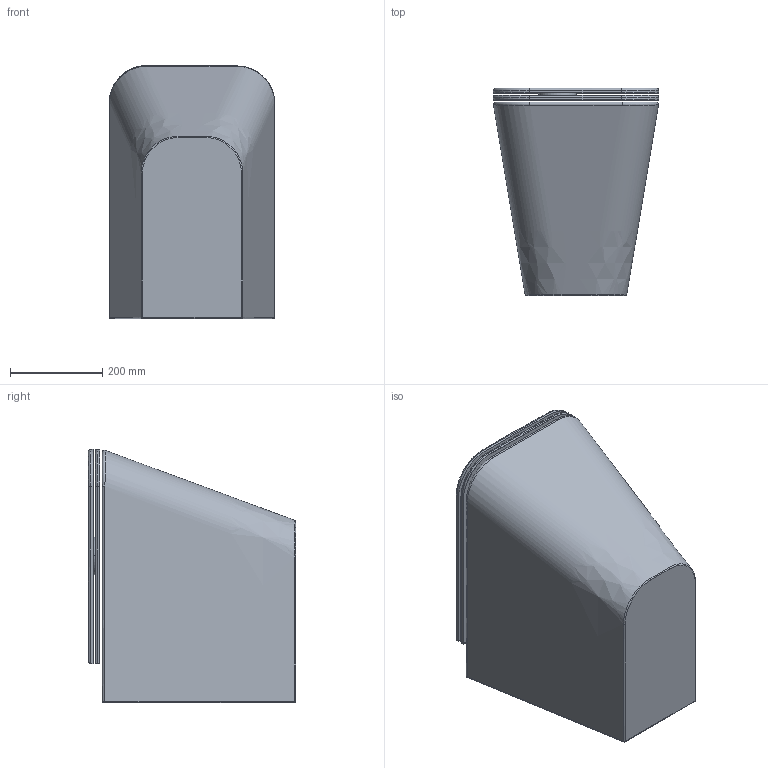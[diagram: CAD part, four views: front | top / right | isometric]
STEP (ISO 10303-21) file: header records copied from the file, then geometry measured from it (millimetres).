
FILE_DESCRIPTION (( 'STEP AP203' ), '1' );
FILE_NAME ('BUVCTTE00000.STEP', '2019-01-29T16:32:31', ( '' ), ( '' ), 'SwSTEP 2.0', 'SolidWorks 2019', '' );
FILE_SCHEMA (( 'CONFIG_CONTROL_DESIGN' ));
Length unit declared in the file: millimetre
Products named in the file (3): BUVCTTE00000; BUILD SEDILE; BUILD WC T
Assembly tree (2 placements, depth 2):
  BUVCTTE00000
    BUILD WC T
    BUILD SEDILE
Bounding box: 359.46 x 450 x 549.74 mm (x, y, z)
Volume: 53069726.7 mm3; surface area: 2001007.8 mm2
Topology: 2 solids, 3 shells, 90 faces, 209 edges, 130 vertices
Faces by surface type: bspline 33, plane 24, cylinder 19, torus 8, cone 4, sphere 2
Entity records: 7443 total; most frequent: CARTESIAN_POINT 5316, ORIENTED_EDGE 414, DIRECTION 325, EDGE_CURVE 207, VERTEX_POINT 130, AXIS2_PLACEMENT_3D 129, EDGE_LOOP 97, FACE_OUTER_BOUND 90
